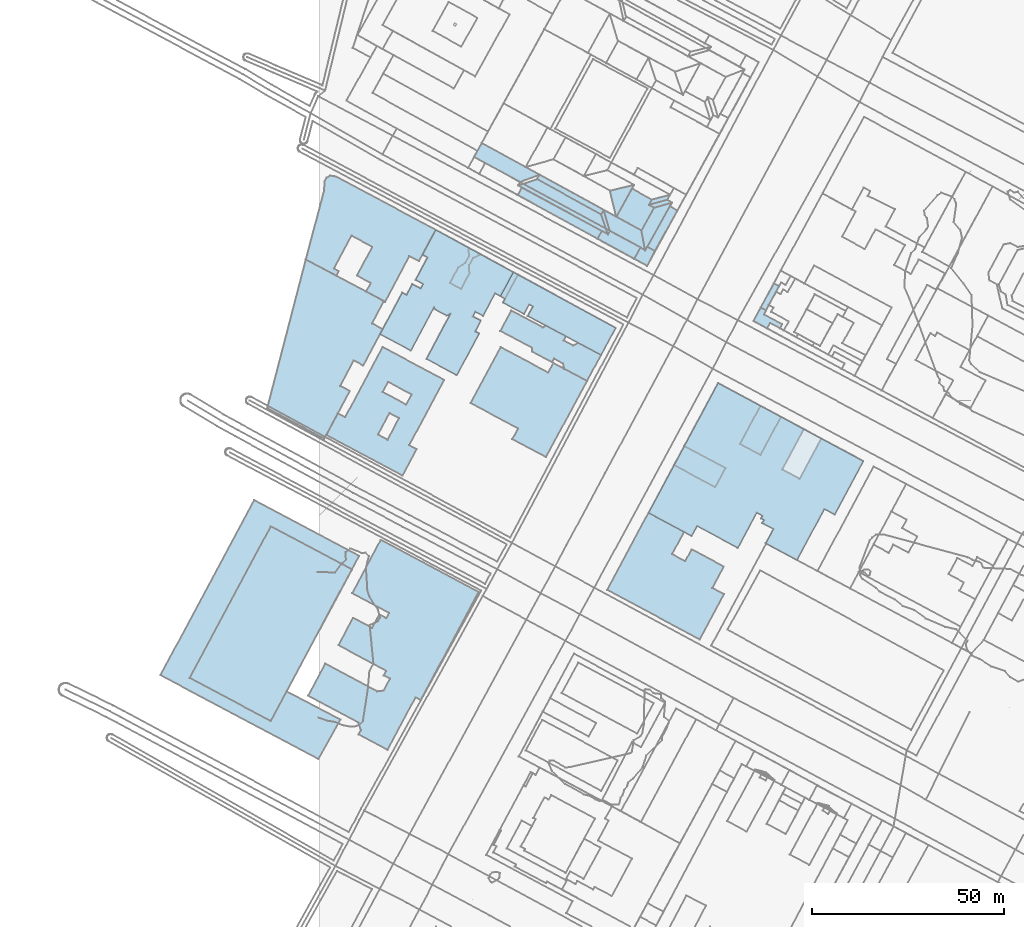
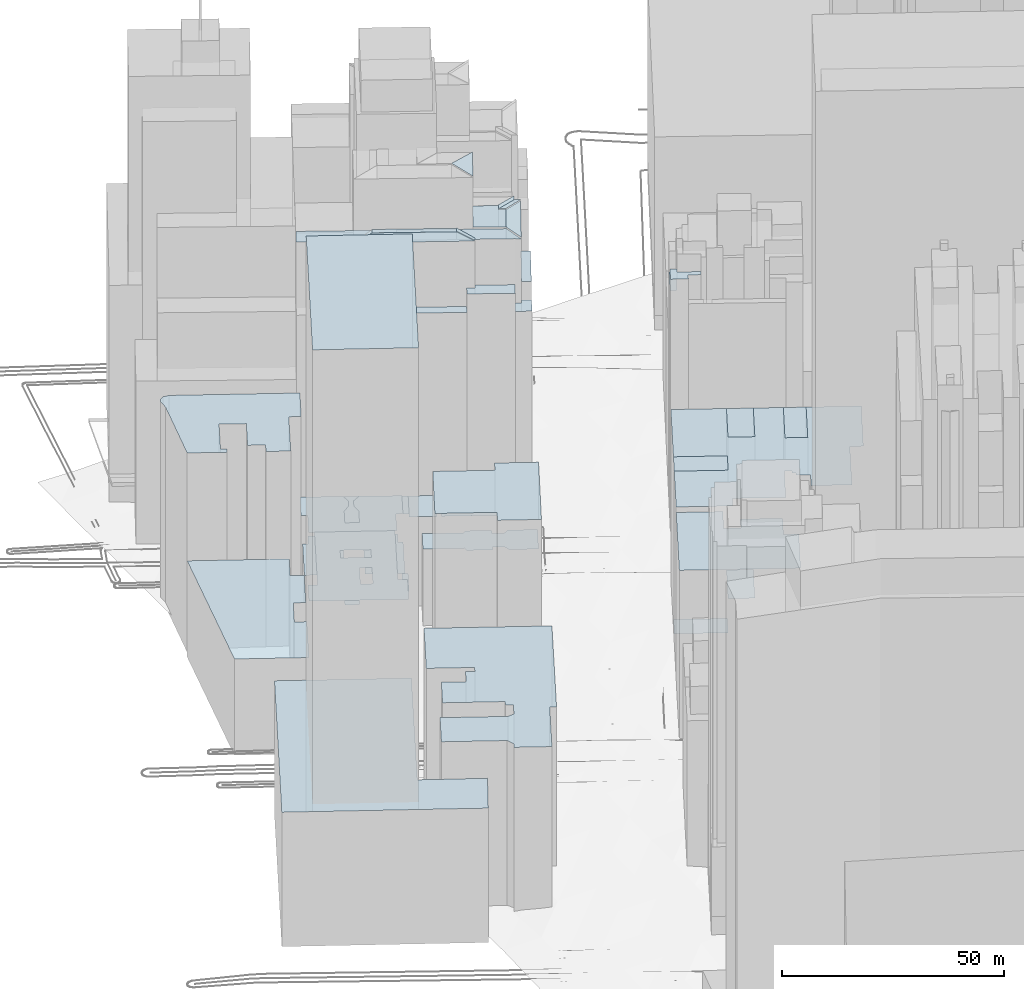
# Not in any storey, part 40 of 80: 34 roofs.
"""IFC4 building model written with IfcOpenShell, lengths in metres."""

from ifc_helpers import new_model, si_unit, frame, origin_with_axes, place, context, subcontext, project, spatial, polygons, element, save


model = new_model("IFC4")

# Units and contexts
model_context = context("Model", 3, precision=1e-05, world=origin_with_axes())
body_context = subcontext(model_context, "Body", "Model", "MODEL_VIEW")
ifc_project = project(units=[si_unit("AREAUNIT", "SQUARE_METRE"), si_unit("LENGTHUNIT", "METRE")], contexts=[model_context])

# Sites, building
site_1_placement = place(None, origin_with_axes())
site_1 = spatial("IfcSite", under=ifc_project, at=site_1_placement, Name="Topoexport Site")
site_2_placement = place(site_1_placement, origin_with_axes())
site_2 = spatial("IfcSite", under=site_1, at=site_2_placement, Name="TPX_BATIMENTS")
building_1_placement = place(site_2_placement, frame((85.8984085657, 240.2837612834, 20.6241127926), z_axis=(0.0, 0.0, 1.0), x_axis=(1.0, 0.0, 0.0)))
building_1 = spatial("IfcBuilding", under=site_2, at=building_1_placement, Name="Batiment 76", CompositionType="ELEMENT")

# Roof
roof_1_placement = place(None, frame((85.8984085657, 240.2837612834, 20.6241127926), z_axis=(0.0, 0.0, 1.0), x_axis=(1.0, 0.0, 0.0)))
element("IfcRoof", 1, at=roof_1_placement, inside=building_1, Name="Toiture 0", context=body_context, shape_type="Tessellation", body=[
    polygons([(0.0, 0.0, 50.0), (11.2465195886, -6.0311397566, 50.0), (12.6512037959, -3.4168984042, 50.0), (23.2861681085, -9.1220554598, 50.0), (28.2024169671, 0.0388994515, 50.0), (29.7229034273, -0.776106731, 50.0), (29.3592670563, -1.4464661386, 50.0), (30.1152258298, -1.848467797, 50.0), (29.6773030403, -2.6640194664, 50.0), (32.5654494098, -4.2180905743, 50.0), (30.5658357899, -7.9383700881, 50.0), (38.6867515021, -12.3182352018, 50.0), (45.8336301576, 1.0208901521, 50.0), (48.5348020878, -0.4243246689, 50.0), (55.9958034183, 13.4846763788, 50.0), (18.1278687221, 33.8059517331, 50.0)], [[[16, 1, 2]], [[3, 4, 5]], [[6, 7, 8]], [[8, 9, 10]], [[10, 11, 12]], [[13, 14, 15]], [[16, 2, 3]], [[6, 8, 10]], [[10, 12, 13]], [[13, 15, 16]], [[16, 3, 5]], [[6, 10, 13]], [[13, 16, 5]], [[5, 6, 13]]]),
])

# Building
building_2_placement = place(site_2_placement, frame((85.8984085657, 240.2837612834, 20.6241127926), z_axis=(0.0, 0.0, 1.0), x_axis=(1.0, 0.0, 0.0)))
building_2 = spatial("IfcBuilding", under=site_2, at=building_2_placement, Name="Batiment 77", CompositionType="ELEMENT")

# Roof
roof_2_placement = place(None, frame((85.8984085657, 240.2837612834, 20.6241127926), z_axis=(0.0, 0.0, 1.0), x_axis=(1.0, 0.0, 0.0)))
element("IfcRoof", 2, at=roof_2_placement, inside=building_2, Name="Toiture 0", context=body_context, shape_type="Tessellation", body=[
    polygons([(0.0, 0.0, 50.0), (11.2465195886, -6.0311397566, 50.0), (12.6512037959, -3.4168984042, 50.0), (23.2861681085, -9.1220554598, 50.0), (28.2024169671, 0.0388994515, 50.0), (29.7229034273, -0.776106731, 50.0), (29.3592670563, -1.4464661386, 50.0), (30.1152258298, -1.848467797, 50.0), (29.6773030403, -2.6640194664, 50.0), (32.5654494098, -4.2180905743, 50.0), (30.5658357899, -7.9383700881, 50.0), (38.6867515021, -12.3182352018, 50.0), (45.8336301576, 1.0208901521, 50.0), (48.5348020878, -0.4243246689, 50.0), (55.9958034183, 13.4846763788, 50.0), (45.0379209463, 19.3747728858, 50.0), (39.3945655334, 8.8619853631, 50.0), (34.8585594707, 11.2961922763, 50.0), (40.5020482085, 21.7978755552, 50.0), (34.5220457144, 25.003566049, 50.0), (29.1928346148, 15.0606509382, 50.0), (23.8498507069, 17.92958022, 50.0), (29.1875069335, 27.8725894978, 50.0), (18.1278687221, 33.8059517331, 50.0), (9.3283721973, 17.3945398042, 50.0), (20.0566635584, 11.6460536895, 50.0), (17.387953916, 6.6634513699, 50.0), (6.6595287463, 12.4230421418, 50.0)], [[[28, 1, 2]], [[3, 4, 5]], [[6, 7, 8]], [[8, 9, 10]], [[10, 11, 12]], [[13, 14, 15]], [[15, 16, 17]], [[18, 19, 20]], [[22, 23, 24]], [[24, 25, 26]], [[27, 28, 2]], [[6, 8, 10]], [[10, 12, 13]], [[13, 15, 17]], [[18, 20, 21]], [[22, 24, 26]], [[26, 27, 2]], [[6, 10, 13]], [[13, 17, 18]], [[18, 21, 22]], [[22, 26, 2]], [[5, 6, 13]], [[13, 18, 22]], [[22, 2, 3]], [[5, 13, 22]], [[22, 3, 5]]]),
])

# Building
building_3_placement = place(site_2_placement, frame((109.7482592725, 258.2133415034, 22.1609130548), z_axis=(0.0, 0.0, 1.0), x_axis=(1.0, 0.0, 0.0)))
building_3 = spatial("IfcBuilding", under=site_2, at=building_3_placement, Name="Batiment 78", CompositionType="ELEMENT")

# Roof
roof_3_placement = place(None, frame((109.7482592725, 258.2133415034, 22.1609130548), z_axis=(0.0, 0.0, 1.0), x_axis=(1.0, 0.0, 0.0)))
element("IfcRoof", 3, at=roof_3_placement, inside=building_3, Name="Toiture 0", context=body_context, shape_type="Tessellation", body=[
    polygons([(0.0, 0.0, 4.0), (5.3429839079, -2.8689292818, 4.0), (10.6721950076, 7.073985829, 4.0), (5.3376562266, 9.9430092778, 4.0)], [[[4, 1, 2]], [[2, 3, 4]]]),
])

# Building
building_4_placement = place(site_2_placement, frame((113.2505831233, 290.2618220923, 23.4496714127), z_axis=(0.0, 0.0, 1.0), x_axis=(1.0, 0.0, 0.0)))
building_4 = spatial("IfcBuilding", under=site_2, at=building_4_placement, Name="Batiment 89", CompositionType="ELEMENT")

# Roof
roof_4_placement = place(None, frame((113.2505831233, 290.2618220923, 23.4496714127), z_axis=(0.0, 0.0, 1.0), x_axis=(1.0, 0.0, 0.0)))
element("IfcRoof", 4, at=roof_4_placement, inside=building_4, Name="Toiture 0", context=body_context, shape_type="Tessellation", body=[
    polygons([(0.0, 0.0, 70.0), (3.5507210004, -1.912748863, 70.0), (4.3278559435, -0.5048368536, 70.0), (6.9103282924, -1.9070263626, 70.0), (7.4887654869, -0.8344899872, 70.0), (2.7316622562, 1.7414799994, 70.0), (3.2685432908, 2.7580220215, 70.0), (1.9180329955, 3.4750820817, 70.0)], [[[8, 1, 2]], [[3, 4, 5]], [[6, 7, 8]], [[3, 5, 6]], [[6, 8, 2]], [[2, 3, 6]]]),
])

# Building
building_5_placement = place(site_2_placement, frame((115.1686161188, 293.7369041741, 23.6149483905), z_axis=(0.0, 0.0, 1.0), x_axis=(1.0, 0.0, 0.0)))
building_5 = spatial("IfcBuilding", under=site_2, at=building_5_placement, Name="Batiment 91", CompositionType="ELEMENT")

# Roof
roof_5_placement = place(None, frame((115.1686161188, 293.7369041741, 23.6149483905), z_axis=(0.0, 0.0, 1.0), x_axis=(1.0, 0.0, 0.0)))
element("IfcRoof", 5, at=roof_5_placement, inside=building_5, Name="Toiture 0", context=body_context, shape_type="Tessellation", body=[
    polygons([(0.0, 0.0, 64.0), (1.3505102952, -0.7170600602, 64.0), (4.7632106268, 5.6175640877, 64.0), (3.4125721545, 6.3457242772, 64.0)], [[[4, 1, 2]], [[2, 3, 4]]]),
])

# Building
building_6_placement = place(site_2_placement, frame((75.8576447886, 324.2223197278, 23.8818952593), z_axis=(0.0, 0.0, 1.0), x_axis=(1.0, 0.0, 0.0)))
building_6 = spatial("IfcBuilding", under=site_2, at=building_6_placement, Name="Batiment 148", CompositionType="ELEMENT")

# Roof
roof_6_placement = place(None, frame((75.8576447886, 324.2223197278, 23.8818952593), z_axis=(0.0, 0.0, 1.0), x_axis=(1.0, 0.0, 0.0)))
element("IfcRoof", 6, at=roof_6_placement, inside=building_6, Name="Toiture 0", context=body_context, shape_type="Tessellation", body=[
    polygons([(0.0, 0.0, 94.0), (1.6742153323, -6.7862405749, 94.0), (6.2713279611, 1.5050133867, 94.0)], [[[3, 1, 2]]]),
])

# Building
building_7_placement = place(site_2_placement, frame((51.8301050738, 323.0662829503, 23.5650277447), z_axis=(0.0, 0.0, 1.0), x_axis=(1.0, 0.0, 0.0)))
building_7 = spatial("IfcBuilding", under=site_2, at=building_7_placement, Name="Batiment 151", CompositionType="ELEMENT")

# Roof
roof_7_placement = place(None, frame((51.8301050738, 323.0662829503, 23.5650277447), z_axis=(0.0, 0.0, 1.0), x_axis=(1.0, 0.0, 0.0)))
element("IfcRoof", 7, at=roof_7_placement, inside=building_7, Name="Toiture 0", context=body_context, shape_type="Tessellation", body=[
    polygons([(0.0, 0.0, 62.0), (20.7629560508, -11.3941082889, 62.0), (21.9038617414, -9.3269442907, 62.0), (1.0828589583, 1.9776688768, 62.0)], [[[4, 1, 2]], [[2, 3, 4]]]),
])

# Building
building_8_placement = place(site_2_placement, frame((-13.4692579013, 267.507853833, 20.5235292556), z_axis=(0.0, 0.0, 1.0), x_axis=(1.0, 0.0, 0.0)))
building_8 = spatial("IfcBuilding", under=site_2, at=building_8_placement, Name="Batiment 154", CompositionType="ELEMENT")

# Roof
roof_8_placement = place(None, frame((-13.4692579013, 267.507853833, 20.5235292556), z_axis=(0.0, 0.0, 1.0), x_axis=(1.0, 0.0, 0.0)))
element("IfcRoof", 8, at=roof_8_placement, inside=building_8, Name="Toiture 0", context=body_context, shape_type="Tessellation", body=[
    polygons([(0.0, 0.0, 26.5), (14.8729310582, -7.9321108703, 26.5), (21.5236253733, 4.535158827, 26.5), (19.0179048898, 5.871663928, 26.5), (22.5456521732, 12.4851249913, 26.5), (25.0429308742, 11.1485231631, 26.5), (30.1073251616, 20.644198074, 26.5), (27.3212769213, 22.1328790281, 26.5), (30.4109499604, 27.9418994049, 26.5), (10.0850586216, 38.7750178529, 26.5)], [[[10, 1, 2]], [[2, 3, 4]], [[5, 6, 7]], [[8, 9, 10]], [[10, 2, 4]], [[5, 7, 8]], [[8, 10, 4]], [[4, 5, 8]]]),
])

# Building
building_9_placement = place(site_2_placement, frame((-3.3841992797, 306.2828716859, 21.8195391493), z_axis=(0.0, 0.0, 1.0), x_axis=(1.0, 0.0, 0.0)))
building_9 = spatial("IfcBuilding", under=site_2, at=building_9_placement, Name="Batiment 155", CompositionType="ELEMENT")

# Roof
roof_9_placement = place(None, frame((-3.3841992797, 306.2828716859, 21.8195391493), z_axis=(0.0, 0.0, 1.0), x_axis=(1.0, 0.0, 0.0)))
element("IfcRoof", 9, at=roof_9_placement, inside=building_9, Name="Toiture 0", context=body_context, shape_type="Tessellation", body=[
    polygons([(0.0, 0.0, 54.9000015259), (7.9587232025, -4.2375453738, 54.9000015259), (8.5865292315, -3.0534231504, 54.9000015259), (7.3125093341, -2.3798647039, 54.9000015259), (11.8893541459, 6.2108665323, 54.9000015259), (17.3086069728, 3.3094443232, 54.9000015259), (13.3099607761, -4.1865612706, 54.9000015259), (16.8944091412, -6.0989674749, 54.9000015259), (15.6882811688, -8.366718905, 54.9000015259), (20.6318009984, -11.0072048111, 54.9000015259), (26.9684045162, 0.8791195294, 54.9000015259), (29.4571079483, -0.4464745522, 54.9000015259), (33.8274296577, 7.7532955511, 54.9000015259), (7.7846017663, 21.6841879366, 54.9000015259), (6.347319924, 21.8784555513, 54.9000015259), (5.3911895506, 21.3455570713, 54.9000015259), (4.8705322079, 20.3847231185, 54.9000015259), (4.8038334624, 18.1301925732, 54.9000015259)], [[[1, 2, 3]], [[6, 7, 8]], [[8, 9, 10]], [[11, 12, 13]], [[13, 14, 15]], [[15, 16, 17]], [[1, 3, 4]], [[6, 8, 10]], [[11, 13, 15]], [[15, 17, 18]], [[18, 1, 4]], [[6, 10, 11]], [[11, 15, 18]], [[18, 4, 5]], [[5, 6, 11]], [[11, 18, 5]]]),
])

# Building
building_10_placement = place(site_2_placement, frame((47.3240526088, 296.7460494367, 22.6341458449), z_axis=(0.0, 0.0, 1.0), x_axis=(1.0, 0.0, 0.0)))
building_10 = spatial("IfcBuilding", under=site_2, at=building_10_placement, Name="Batiment 156", CompositionType="ELEMENT")

# Roof
roof_10_placement = place(None, frame((47.3240526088, 296.7460494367, 22.6341458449), z_axis=(0.0, 0.0, 1.0), x_axis=(1.0, 0.0, 0.0)))
element("IfcRoof", 10, at=roof_10_placement, inside=building_10, Name="Toiture 0", context=body_context, shape_type="Tessellation", body=[
    polygons([(0.0, 0.0, 4.0), (1.2145569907, -0.6409345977, 4.0), (4.5862716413, 5.5932606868, 4.0), (3.3375678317, 6.267105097, 4.0)], [[[4, 1, 2]], [[2, 3, 4]]]),
])

# Building
building_11_placement = place(site_2_placement, frame((15.9441565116, 286.8450369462, 20.647913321), z_axis=(0.0, 0.0, 1.0), x_axis=(1.0, 0.0, 0.0)))
building_11 = spatial("IfcBuilding", under=site_2, at=building_11_placement, Name="Batiment 157", CompositionType="ELEMENT")

# Roof
roof_11_placement = place(None, frame((15.9441565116, 286.8450369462, 20.647913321), z_axis=(0.0, 0.0, 1.0), x_axis=(1.0, 0.0, 0.0)))
element("IfcRoof", 11, at=roof_11_placement, inside=building_11, Name="Toiture 0", context=body_context, shape_type="Tessellation", body=[
    polygons([(0.0, 0.0, 27.3999996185), (8.0352328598, -4.2810464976, 27.3999996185), (14.0662474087, 7.0244198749, 27.3999996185), (14.5213100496, 6.363565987, 27.3999996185), (17.3582596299, 4.8532774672, 27.3999996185), (18.4068488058, 5.4205597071, 27.3999996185), (12.0868715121, -6.4433762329, 27.3999996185), (20.0203200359, -10.6811822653, 27.3999996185), (25.8033972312, 0.1662240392, 27.3999996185), (24.7841247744, 0.7095061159, 27.3999996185), (26.2793412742, 3.5246280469, 27.3999996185), (24.1813290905, 4.6438087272, 27.3999996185), (24.8257532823, 5.8503314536, 27.3999996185), (26.8302782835, 4.7855771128, 27.3999996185), (29.9614850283, 10.6506035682, 27.3999996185), (31.3798960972, 9.9010124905, 27.3999996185), (34.717463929, 16.1681175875, 27.3999996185), (14.4990738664, 27.1911302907, 27.3999996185), (11.0539615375, 20.7340482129, 27.3999996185), (12.3874511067, 20.0278770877, 27.3999996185), (9.2563637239, 14.1517573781, 27.3999996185), (11.2354346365, 13.0978057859, 27.3999996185), (10.5910089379, 11.8912842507, 27.3999996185), (8.3996436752, 13.0537949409, 27.3999996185), (6.9042937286, 10.2497774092, 27.3999996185), (5.7830971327, 10.847390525, 27.3999996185)], [[[26, 1, 2]], [[3, 4, 5]], [[6, 7, 8]], [[8, 9, 10]], [[10, 11, 12]], [[13, 14, 15]], [[15, 16, 17]], [[17, 18, 19]], [[20, 21, 22]], [[23, 24, 25]], [[25, 26, 2]], [[3, 5, 6]], [[6, 8, 10]], [[13, 15, 17]], [[17, 19, 20]], [[23, 25, 2]], [[6, 10, 12]], [[13, 17, 20]], [[22, 23, 2]], [[3, 6, 12]], [[12, 13, 20]], [[22, 2, 3]], [[3, 12, 20]], [[20, 22, 3]]]),
])

# Building
building_12_placement = place(site_2_placement, frame((15.9441565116, 286.8450369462, 20.647913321), z_axis=(0.0, 0.0, 1.0), x_axis=(1.0, 0.0, 0.0)))
building_12 = spatial("IfcBuilding", under=site_2, at=building_12_placement, Name="Batiment 158", CompositionType="ELEMENT")

# Roof
roof_12_placement = place(None, frame((15.9441565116, 286.8450369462, 20.647913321), z_axis=(0.0, 0.0, 1.0), x_axis=(1.0, 0.0, 0.0)))
element("IfcRoof", 12, at=roof_12_placement, inside=building_12, Name="Toiture 0", context=body_context, shape_type="Tessellation", body=[
    polygons([(0.0, 0.0, 27.3999996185), (8.0352328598, -4.2810464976, 27.3999996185), (14.0662474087, 7.0244198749, 27.3999996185), (14.5213100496, 6.363565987, 27.3999996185), (17.3582596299, 4.8532774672, 27.3999996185), (18.4068488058, 5.4205597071, 27.3999996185), (12.0868715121, -6.4433762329, 27.3999996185), (20.0203200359, -10.6811822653, 27.3999996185), (25.8033972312, 0.1662240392, 27.3999996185), (24.7841247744, 0.7095061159, 27.3999996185), (26.2793412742, 3.5246280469, 27.3999996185), (24.1813290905, 4.6438087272, 27.3999996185), (24.8257532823, 5.8503314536, 27.3999996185), (26.8302782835, 4.7855771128, 27.3999996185), (29.9614850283, 10.6506035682, 27.3999996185), (31.3798960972, 9.9010124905, 27.3999996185), (34.717463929, 16.1681175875, 27.3999996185), (26.2477906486, 20.7882623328, 27.3999996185), (24.2412699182, 19.8434861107, 27.3999996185), (23.2746353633, 18.0337020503, 27.3999996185), (23.2917057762, 15.8356544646, 27.3999996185), (21.13557285, 11.7805123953, 27.3999996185), (18.213707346, 13.3342229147, 27.3999996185), (20.3782815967, 17.3894620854, 27.3999996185), (22.2214757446, 18.5876933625, 27.3999996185), (23.1881104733, 20.3974772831, 27.3999996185), (23.1045489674, 22.5059351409, 27.3999996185), (14.4990738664, 27.1911302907, 27.3999996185), (11.0539615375, 20.7340482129, 27.3999996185), (12.3874511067, 20.0278770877, 27.3999996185), (9.2563637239, 14.1517573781, 27.3999996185), (11.2354346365, 13.0978057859, 27.3999996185), (10.5910089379, 11.8912842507, 27.3999996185), (8.3996436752, 13.0537949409, 27.3999996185), (6.9042937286, 10.2497774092, 27.3999996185), (5.7830971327, 10.847390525, 27.3999996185)], [[[36, 1, 2]], [[3, 4, 5]], [[6, 7, 8]], [[8, 9, 10]], [[10, 11, 12]], [[13, 14, 15]], [[15, 16, 17]], [[17, 18, 19]], [[19, 20, 21]], [[24, 25, 26]], [[26, 27, 28]], [[28, 29, 30]], [[30, 31, 32]], [[33, 34, 35]], [[35, 36, 2]], [[3, 5, 6]], [[6, 8, 10]], [[13, 15, 17]], [[17, 19, 21]], [[24, 26, 28]], [[28, 30, 32]], [[33, 35, 2]], [[6, 10, 12]], [[13, 17, 21]], [[23, 24, 28]], [[32, 33, 2]], [[3, 6, 12]], [[12, 13, 21]], [[23, 28, 32]], [[32, 2, 3]], [[12, 21, 22]], [[22, 23, 32]], [[32, 3, 12]], [[12, 22, 32]]]),
])

# Building
building_13_placement = place(site_2_placement, frame((34.1578638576, 300.1792598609, 21.4353953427), z_axis=(0.0, 0.0, 1.0), x_axis=(1.0, 0.0, 0.0)))
building_13 = spatial("IfcBuilding", under=site_2, at=building_13_placement, Name="Batiment 159", CompositionType="ELEMENT")

# Roof
roof_13_placement = place(None, frame((34.1578638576, 300.1792598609, 21.4353953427), z_axis=(0.0, 0.0, 1.0), x_axis=(1.0, 0.0, 0.0)))
element("IfcRoof", 13, at=roof_13_placement, inside=building_13, Name="Toiture 0", context=body_context, shape_type="Tessellation", body=[
    polygons([(0.0, 0.0, 4.0), (2.921865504, -1.5537105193, 4.0), (5.0779984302, 2.5014315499, 4.0), (5.0609280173, 4.6994791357, 4.0), (6.0275625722, 6.509263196, 4.0), (8.0340833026, 7.4540394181, 4.0), (4.8908416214, 9.1717122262, 4.0), (4.9744031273, 7.0632543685, 4.0), (4.0077683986, 5.2534704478, 4.0), (2.1645742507, 4.0552391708, 4.0)], [[[10, 1, 2]], [[2, 3, 4]], [[5, 6, 7]], [[9, 10, 2]], [[5, 7, 8]], [[8, 9, 2]], [[4, 5, 8]], [[8, 2, 4]]]),
])

# Building
building_14_placement = place(site_2_placement, frame((73.5998116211, 318.0232504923, 23.6934942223), z_axis=(0.0, 0.0, 1.0), x_axis=(1.0, 0.0, 0.0)))
building_14 = spatial("IfcBuilding", under=site_2, at=building_14_placement, Name="Batiment 160", CompositionType="ELEMENT")

# Roof
roof_14_placement = place(None, frame((73.5998116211, 318.0232504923, 23.6934942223), z_axis=(0.0, 0.0, 1.0), x_axis=(1.0, 0.0, 0.0)))
element("IfcRoof", 14, at=roof_14_placement, inside=building_14, Name="Toiture 0", context=body_context, shape_type="Tessellation", body=[
    polygons([(0.0, 0.0, 80.0), (1.7651185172, -5.1642565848, 80.0), (2.2527799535, -4.2704138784, 80.0), (0.6783061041, 1.1958170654, 80.0)], [[[4, 1, 2]], [[2, 3, 4]]]),
])

# Building
building_15_placement = place(site_2_placement, frame((72.5930611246, 311.6721746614, 23.6541015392), z_axis=(0.0, 0.0, 1.0), x_axis=(1.0, 0.0, 0.0)))
building_15 = spatial("IfcBuilding", under=site_2, at=building_15_placement, Name="Batiment 161", CompositionType="ELEMENT")

# Roof
roof_15_placement = place(None, frame((72.5930611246, 311.6721746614, 23.6541015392), z_axis=(0.0, 0.0, 1.0), x_axis=(1.0, 0.0, 0.0)))
element("IfcRoof", 15, at=roof_15_placement, inside=building_15, Name="Toiture 0", context=body_context, shape_type="Tessellation", body=[
    polygons([(0.0, 0.0, 67.0), (9.5908889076, -5.2177144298, 67.0), (11.2191958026, -2.2345041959, 67.0), (3.2595304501, 2.0806619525, 67.0), (2.7718690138, 1.186819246, 67.0), (1.1409056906, 2.0671639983, 67.0)], [[[6, 1, 2]], [[2, 3, 4]], [[5, 6, 2]], [[2, 4, 5]]]),
])

# Building
building_16_placement = place(site_2_placement, frame((82.1839500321, 306.4544602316, 23.6541015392), z_axis=(0.0, 0.0, 1.0), x_axis=(1.0, 0.0, 0.0)))
building_16 = spatial("IfcBuilding", under=site_2, at=building_16_placement, Name="Batiment 162", CompositionType="ELEMENT")

# Roof
roof_16_placement = place(None, frame((82.1839500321, 306.4544602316, 23.6541015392), z_axis=(0.0, 0.0, 1.0), x_axis=(1.0, 0.0, 0.0)))
element("IfcRoof", 16, at=roof_16_placement, inside=building_16, Name="Toiture 0", context=body_context, shape_type="Tessellation", body=[
    polygons([(0.0, 0.0, 62.0), (3.3638596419, -1.8150130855, 62.0), (5.3873702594, 2.0276609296, 62.0), (3.390767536, 3.1369042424, 62.0), (2.8614214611, 2.1981677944, 62.0), (1.628306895, 2.983210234, 62.0)], [[[6, 1, 2]], [[2, 3, 4]], [[5, 6, 2]], [[2, 4, 5]]]),
])

# Building
building_17_placement = place(site_2_placement, frame((84.0905066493, 313.8262916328, 23.7335275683), z_axis=(0.0, 0.0, 1.0), x_axis=(1.0, 0.0, 0.0)))
building_17 = spatial("IfcBuilding", under=site_2, at=building_17_placement, Name="Batiment 163", CompositionType="ELEMENT")

# Roof
roof_17_placement = place(None, frame((84.0905066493, 313.8262916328, 23.7335275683), z_axis=(0.0, 0.0, 1.0), x_axis=(1.0, 0.0, 0.0)))
element("IfcRoof", 17, at=roof_17_placement, inside=building_17, Name="Toiture 0", context=body_context, shape_type="Tessellation", body=[
    polygons([(0.0, 0.0, 80.0), (0.9548648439, -5.1736636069, 80.0), (7.9345415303, 7.2975078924, 80.0), (3.3073776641, 5.9559091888, 80.0)], [[[4, 1, 2]], [[2, 3, 4]]]),
])

# Building
building_18_placement = place(site_2_placement, frame((85.5747175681, 309.591364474, 23.7388524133), z_axis=(0.0, 0.0, 1.0), x_axis=(1.0, 0.0, 0.0)))
building_18 = spatial("IfcBuilding", under=site_2, at=building_18_placement, Name="Batiment 164", CompositionType="ELEMENT")

# Roof
roof_18_placement = place(None, frame((85.5747175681, 309.591364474, 23.7388524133), z_axis=(0.0, 0.0, 1.0), x_axis=(1.0, 0.0, 0.0)))
element("IfcRoof", 18, at=roof_18_placement, inside=building_18, Name="Toiture 0", context=body_context, shape_type="Tessellation", body=[
    polygons([(0.0, 0.0, 67.0), (1.9966027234, -1.1092433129, 67.0), (7.8583766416, 9.4948709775, 67.0), (5.9126749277, 10.5824993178, 67.0)], [[[4, 1, 2]], [[2, 3, 4]]]),
])

# Building
building_19_placement = place(site_2_placement, frame((47.2941529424, 287.6862653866, 22.3142509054), z_axis=(0.0, 0.0, 1.0), x_axis=(1.0, 0.0, 0.0)))
building_19 = spatial("IfcBuilding", under=site_2, at=building_19_placement, Name="Batiment 165", CompositionType="ELEMENT")

# Roof
roof_19_placement = place(None, frame((47.2941529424, 287.6862653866, 22.3142509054), z_axis=(0.0, 0.0, 1.0), x_axis=(1.0, 0.0, 0.0)))
element("IfcRoof", 19, at=roof_19_placement, inside=building_19, Name="Toiture 0", context=body_context, shape_type="Tessellation", body=[
    polygons([(0.0, 0.0, 21.5), (8.2307944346, -4.4008675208, 21.5), (8.2421345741, -5.3777339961, 21.5), (13.4574445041, -8.1593656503, 21.5), (13.9699153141, -7.2208270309, 21.5), (16.3907258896, -8.5138902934, 21.5), (16.6767950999, -9.8872482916, 21.5), (22.5887243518, -13.0493648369, 21.5), (26.2412137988, -6.2789916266, 21.5), (20.3292881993, -3.1168780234, 21.5), (18.9358097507, -3.7880894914, 21.5), (16.5150002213, -2.4950270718, 21.5), (17.1100684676, -1.400097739, 21.5), (11.8946328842, 1.3926320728, 21.5), (11.0899102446, 0.905893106, 21.5), (2.8591197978, 5.3067574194, 21.5)], [[[16, 1, 2]], [[2, 3, 4]], [[6, 7, 8]], [[8, 9, 10]], [[12, 13, 14]], [[15, 16, 2]], [[2, 4, 5]], [[6, 8, 10]], [[12, 14, 15]], [[15, 2, 5]], [[5, 6, 10]], [[12, 15, 5]], [[5, 10, 11]], [[11, 12, 5]]]),
])

# Building
building_20_placement = place(site_2_placement, frame((47.9849679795, 295.0772811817, 22.6386360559), z_axis=(0.0, 0.0, 1.0), x_axis=(1.0, 0.0, 0.0)))
building_20 = spatial("IfcBuilding", under=site_2, at=building_20_placement, Name="Batiment 166", CompositionType="ELEMENT")

# Roof
roof_20_placement = place(None, frame((47.9849679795, 295.0772811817, 22.6386360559), z_axis=(0.0, 0.0, 1.0), x_axis=(1.0, 0.0, 0.0)))
element("IfcRoof", 20, at=roof_20_placement, inside=building_20, Name="Toiture 0", context=body_context, shape_type="Tessellation", body=[
    polygons([(0.0, 0.0, 25.2999992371), (5.4873189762, -2.9450128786, 25.2999992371), (6.8259021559, -0.4536717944, 25.2999992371), (7.8112848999, -0.9862431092, 25.2999992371), (6.4725730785, -3.4664836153, 25.2999992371), (25.5503987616, -13.6700074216, 25.2999992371), (29.3597658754, -6.5980497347, 25.2999992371), (3.9253562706, 7.2620289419, 25.2999992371)], [[[8, 1, 2]], [[4, 5, 6]], [[6, 7, 8]], [[8, 2, 3]], [[4, 6, 8]], [[8, 3, 4]]]),
])

# Building
building_21_placement = place(site_2_placement, frame((47.3240526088, 296.7460494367, 22.6341458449), z_axis=(0.0, 0.0, 1.0), x_axis=(1.0, 0.0, 0.0)))
building_21 = spatial("IfcBuilding", under=site_2, at=building_21_placement, Name="Batiment 167", CompositionType="ELEMENT")

# Roof
roof_21_placement = place(None, frame((47.3240526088, 296.7460494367, 22.6341458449), z_axis=(0.0, 0.0, 1.0), x_axis=(1.0, 0.0, 0.0)))
element("IfcRoof", 21, at=roof_21_placement, inside=building_21, Name="Toiture 0", context=body_context, shape_type="Tessellation", body=[
    polygons([(0.0, 0.0, 25.2999992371), (1.2145569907, -0.6409345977, 25.2999992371), (0.6609153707, -1.668768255, 25.2999992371), (6.1482343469, -4.6137811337, 25.2999992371), (7.4868175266, -2.1224400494, 25.2999992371), (8.4722002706, -2.6550113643, 25.2999992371), (7.1334884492, -5.1352518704, 25.2999992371), (26.2113141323, -15.3387756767, 25.2999992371), (30.0206812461, -8.2668179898, 25.2999992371), (3.3375678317, 6.267105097, 25.2999992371)], [[[10, 1, 2]], [[2, 3, 4]], [[6, 7, 8]], [[8, 9, 10]], [[10, 2, 4]], [[6, 8, 10]], [[10, 4, 5]], [[5, 6, 10]]]),
])

# Building
building_22_placement = place(site_2_placement, frame((39.5439098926, 268.8668109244, 21.829392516), z_axis=(0.0, 0.0, 1.0), x_axis=(1.0, 0.0, 0.0)))
building_22 = spatial("IfcBuilding", under=site_2, at=building_22_placement, Name="Batiment 168", CompositionType="ELEMENT")

# Roof
roof_22_placement = place(None, frame((39.5439098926, 268.8668109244, 21.829392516), z_axis=(0.0, 0.0, 1.0), x_axis=(1.0, 0.0, 0.0)))
element("IfcRoof", 22, at=roof_22_placement, inside=building_22, Name="Toiture 0", context=body_context, shape_type="Tessellation", body=[
    polygons([(0.0, 0.0, 45.9000015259), (12.3759530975, -6.6176192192, 45.9000015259), (10.8802187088, -9.3883399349, 45.9000015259), (19.6376943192, -14.0717489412, 45.9000015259), (30.3389674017, 5.7700896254, 45.9000015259), (21.5815076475, 10.4534858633, 45.9000015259), (20.2344833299, 7.9620457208, 45.9000015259), (7.8585467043, 14.5796516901, 45.9000015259)], [[[8, 1, 2]], [[2, 3, 4]], [[4, 5, 6]], [[7, 8, 2]], [[2, 4, 6]], [[6, 7, 2]]]),
])

# Building
building_23_placement = place(site_2_placement, frame((92.5579373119, 252.7068034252, 21.8391315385), z_axis=(0.0, 0.0, 1.0), x_axis=(1.0, 0.0, 0.0)))
building_23 = spatial("IfcBuilding", under=site_2, at=building_23_placement, Name="Batiment 169", CompositionType="ELEMENT")

# Roof
roof_23_placement = place(None, frame((92.5579373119, 252.7068034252, 21.8391315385), z_axis=(0.0, 0.0, 1.0), x_axis=(1.0, 0.0, 0.0)))
element("IfcRoof", 23, at=roof_23_placement, inside=building_23, Name="Toiture 0", context=body_context, shape_type="Tessellation", body=[
    polygons([(0.0, 0.0, 4.0), (10.7284251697, -5.759590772, 4.0), (13.3971348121, -0.7769884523, 4.0), (2.6688434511, 4.9714976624, 4.0)], [[[4, 1, 2]], [[2, 3, 4]]]),
])

# Building
building_24_placement = place(site_2_placement, frame((75.1238683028, 220.2079028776, 20.5185789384), z_axis=(0.0, 0.0, 1.0), x_axis=(1.0, 0.0, 0.0)))
building_24 = spatial("IfcBuilding", under=site_2, at=building_24_placement, Name="Batiment 170", CompositionType="ELEMENT")

# Roof
roof_24_placement = place(None, frame((75.1238683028, 220.2079028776, 20.5185789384), z_axis=(0.0, 0.0, 1.0), x_axis=(1.0, 0.0, 0.0)))
element("IfcRoof", 24, at=roof_24_placement, inside=building_24, Name="Toiture 0", context=body_context, shape_type="Tessellation", body=[
    polygons([(0.0, 0.0, 48.5999984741), (24.1325284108, -12.9425374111, 48.5999984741), (30.4615452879, -1.1339469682, 48.5999984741), (27.4290071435, 0.4961679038, 48.5999984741), (30.411754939, 6.0597342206, 48.5999984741), (22.0193408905, 10.5585915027, 48.5999984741), (20.3502373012, 7.4527804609, 48.5999984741), (16.9270008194, 9.2893047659, 48.5999984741), (20.0504016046, 15.09874989, 48.5999984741), (10.7745402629, 20.0758584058, 48.5999984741)], [[[10, 1, 2]], [[2, 3, 4]], [[4, 5, 6]], [[8, 9, 10]], [[2, 4, 6]], [[8, 10, 2]], [[2, 6, 7]], [[7, 8, 2]]]),
])

# Building
building_25_placement = place(site_2_placement, frame((1.9323894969, 260.5699769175, 20.5582452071), z_axis=(0.0, 0.0, 1.0), x_axis=(1.0, 0.0, 0.0)))
building_25 = spatial("IfcBuilding", under=site_2, at=building_25_placement, Name="Batiment 171", CompositionType="ELEMENT")

# Roof
roof_25_placement = place(None, frame((1.9323894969, 260.5699769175, 20.5582452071), z_axis=(0.0, 0.0, 1.0), x_axis=(1.0, 0.0, 0.0)))
element("IfcRoof", 25, at=roof_25_placement, inside=building_25, Name="Toiture 0", context=body_context, shape_type="Tessellation", body=[
    polygons([(0.0, 0.0, 41.2000007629), (19.884421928, -10.6050822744, 41.2000007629), (23.5608715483, -3.7123317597, 41.2000007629), (21.6242486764, -2.6800914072, 41.2000007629), (30.7036559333, 14.3562056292, 41.2000007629), (14.6755029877, 22.9076776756, 41.2000007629), (4.9268330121, 4.6201840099, 41.2000007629), (3.015664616, 5.6416221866, 41.2000007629), (13.4801606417, 0.0675826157, 41.2000007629), (16.4710095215, 5.6645136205, 41.2000007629), (18.9427160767, 4.3498225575, 41.2000007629), (15.9519972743, -1.2582102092, 41.2000007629), (14.7016706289, 11.1951078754, 41.2000007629), (16.1062463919, 13.820434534, 41.2000007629), (22.2473331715, 10.5499185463, 41.2000007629), (20.8513279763, 7.9135878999, 41.2000007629)], [[[16, 13, 7]], [[7, 8, 1]], [[1, 9, 10]], [[12, 9, 1]], [[1, 2, 3]], [[6, 7, 13]], [[16, 7, 1]], [[12, 1, 3]], [[6, 13, 14]], [[16, 1, 10]], [[12, 3, 4]], [[5, 6, 14]], [[16, 10, 11]], [[11, 12, 4]], [[5, 14, 15]], [[16, 11, 4]], [[4, 5, 15]], [[15, 16, 4]]]),
])

# Building
building_26_placement = place(site_2_placement, frame((-2.7913984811, 192.6027250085, 19.7081583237), z_axis=(0.0, 0.0, 1.0), x_axis=(1.0, 0.0, 0.0)))
building_26 = spatial("IfcBuilding", under=site_2, at=building_26_placement, Name="Batiment 172", CompositionType="ELEMENT")

# Roof
roof_26_placement = place(None, frame((-2.7913984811, 192.6027250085, 19.7081583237), z_axis=(0.0, 0.0, 1.0), x_axis=(1.0, 0.0, 0.0)))
element("IfcRoof", 26, at=roof_26_placement, inside=building_26, Name="Toiture 0", context=body_context, shape_type="Tessellation", body=[
    polygons([(0.0, 0.0, 46.2000007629), (13.0981058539, -7.0089939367, 46.2000007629), (13.7530284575, -8.8887774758, 46.2000007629), (13.1169008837, -10.0840985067, 46.2000007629), (20.6597368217, -14.1155150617, 46.2000007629), (27.9882930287, -0.4080177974, 46.2000007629), (29.3389411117, -1.1361950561, 46.2000007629), (44.4009101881, 27.0273767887, 46.2000007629), (18.926971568, 40.6428730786, 46.2000007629), (11.4828536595, 26.7119974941, 46.2000007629), (21.1066720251, 21.5722969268, 46.2000007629), (20.3713252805, 20.1981878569, 46.2000007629), (18.5196108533, 21.1870066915, 46.2000007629), (16.6440978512, 17.6791392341, 46.2000007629), (11.7089640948, 20.3197258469, 46.2000007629), (7.8920809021, 13.1589018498, 46.2000007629), (20.361463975, 6.4978988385, 46.2000007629), (19.7335216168, 5.3248766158, 46.2000007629), (21.330483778, 4.466328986, 46.2000007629), (19.6699087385, 1.3495336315, 46.2000007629), (17.9922095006, 1.1635335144, 46.2000007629), (4.4864005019, 8.3898337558, 46.2000007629)], [[[22, 1, 2]], [[3, 4, 5]], [[6, 7, 8]], [[8, 9, 10]], [[12, 13, 14]], [[14, 15, 16]], [[17, 18, 19]], [[21, 22, 2]], [[2, 3, 5]], [[8, 10, 11]], [[14, 16, 17]], [[20, 21, 2]], [[2, 5, 6]], [[6, 8, 11]], [[12, 14, 17]], [[20, 2, 6]], [[6, 11, 12]], [[12, 17, 19]], [[19, 20, 6]], [[6, 12, 19]]]),
])

# Building
building_27_placement = place(site_2_placement, frame((-33.682086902, 197.2515555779, 19.8467253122), z_axis=(0.0, 0.0, 1.0), x_axis=(1.0, 0.0, 0.0)))
building_27 = spatial("IfcBuilding", under=site_2, at=building_27_placement, Name="Batiment 196", CompositionType="ELEMENT")

# Roof
roof_27_placement = place(None, frame((-33.682086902, 197.2515555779, 19.8467253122), z_axis=(0.0, 0.0, 1.0), x_axis=(1.0, 0.0, 0.0)))
element("IfcRoof", 27, at=roof_27_placement, inside=building_27, Name="Toiture 0", context=body_context, shape_type="Tessellation", body=[
    polygons([(0.0, 0.0, 162.0), (21.1496172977, -11.2344352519, 162.0), (42.3099874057, 28.2685864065, 162.0), (21.1603180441, 39.5140614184, 162.0)], [[[4, 1, 2]], [[2, 3, 4]]]),
])

# Building
building_28_placement = place(site_2_placement, frame((-41.2792322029, 197.9628221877, 19.7236717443), z_axis=(0.0, 0.0, 1.0), x_axis=(1.0, 0.0, 0.0)))
building_28 = spatial("IfcBuilding", under=site_2, at=building_28_placement, Name="Batiment 197", CompositionType="ELEMENT")

# Roof
roof_28_placement = place(None, frame((-41.2792322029, 197.9628221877, 19.7236717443), z_axis=(0.0, 0.0, 1.0), x_axis=(1.0, 0.0, 0.0)))
element("IfcRoof", 28, at=roof_28_placement, inside=building_28, Name="Toiture 0", context=body_context, shape_type="Tessellation", body=[
    polygons([(0.0, 0.0, 37.0), (41.1697471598, -21.8824360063, 37.0), (46.9005745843, -11.6129862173, 37.0), (32.8697860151, -4.2484289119, 37.0), (51.740056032, 31.0979986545, 37.0), (24.432417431, 45.6138174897, 37.0)], [[[1, 2, 3]], [[4, 5, 6]], [[1, 3, 4]], [[4, 6, 1]]]),
])

# Building
building_29_placement = place(site_2_placement, frame((40.4372493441, 332.9926795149, 23.2973875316), z_axis=(0.0, 0.0, 1.0), x_axis=(1.0, 0.0, 0.0)))
building_29 = spatial("IfcBuilding", under=site_2, at=building_29_placement, Name="Batiment 302", CompositionType="ELEMENT")

# Roof
roof_29_placement = place(None, frame((40.4372493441, 332.9926795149, 23.2973875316), z_axis=(0.0, 0.0, 1.0), x_axis=(1.0, 0.0, 0.0)))
element("IfcRoof", 29, at=roof_29_placement, inside=building_29, Name="Toiture 0", context=body_context, shape_type="Tessellation", body=[
    polygons([(0.0, 0.0, 80.0), (43.3750075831, -23.5550090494, 80.0), (44.6081221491, -24.340051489, 80.0), (43.6532573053, -19.1663878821, 80.0), (2.0171467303, 3.6649515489, 80.0)], [[[5, 1, 2]], [[2, 3, 4]], [[4, 5, 2]]]),
])

# Building
building_30_placement = place(site_2_placement, frame((86.0131052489, 320.5432770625, 24.0792113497), z_axis=(0.0, 0.0, 1.0), x_axis=(1.0, 0.0, 0.0)))
building_30 = spatial("IfcBuilding", under=site_2, at=building_30_placement, Name="Batiment 325", CompositionType="ELEMENT")

# Roof
roof_30_placement = place(None, frame((86.0131052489, 320.5432770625, 24.0792113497), z_axis=(0.0, 0.0, 1.0), x_axis=(1.0, 0.0, 0.0)))
element("IfcRoof", 30, at=roof_30_placement, inside=building_30, Name="Toiture 0", context=body_context, shape_type="Tessellation", body=[
    polygons([(0.0, 0.0, 80.0), (4.762593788, 1.3098639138, 80.0), (5.5154405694, 2.6286731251, 80.0), (0.7607723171, 1.3633097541, 80.0)], [[[4, 1, 2]], [[2, 3, 4]]]),
])

# Building
building_31_placement = place(site_2_placement, frame((86.0131052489, 320.5432770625, 24.0792113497), z_axis=(0.0, 0.0, 1.0), x_axis=(1.0, 0.0, 0.0)))
building_31 = spatial("IfcBuilding", under=site_2, at=building_31_placement, Name="Batiment 326", CompositionType="ELEMENT")

# Roof
roof_31_placement = place(None, frame((86.0131052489, 320.5432770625, 24.0792113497), z_axis=(0.0, 0.0, 1.0), x_axis=(1.0, 0.0, 0.0)))
element("IfcRoof", 31, at=roof_31_placement, inside=building_31, Name="Toiture 0", context=body_context, shape_type="Tessellation", body=[
    polygons([(0.0, 0.0, 80.0), (1.3847790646, -0.7610762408, 80.0), (6.0119429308, 0.5805224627, 80.0), (4.762593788, 1.3098639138, 80.0)], [[[4, 1, 2]], [[2, 3, 4]]]),
])

# Building
building_32_placement = place(site_2_placement, frame((77.5318601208, 317.4360791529, 23.8332747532), z_axis=(0.0, 0.0, 1.0), x_axis=(1.0, 0.0, 0.0)))
building_32 = spatial("IfcBuilding", under=site_2, at=building_32_placement, Name="Batiment 327", CompositionType="ELEMENT")

# Roof
roof_32_placement = place(None, frame((77.5318601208, 317.4360791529, 23.8332747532), z_axis=(0.0, 0.0, 1.0), x_axis=(1.0, 0.0, 0.0)))
element("IfcRoof", 32, at=roof_32_placement, inside=building_32, Name="Toiture 0", context=body_context, shape_type="Tessellation", body=[
    polygons([(0.0, 0.0, 80.0), (6.5586465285, -3.60978752, 80.0), (9.8660241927, 2.3461216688, 80.0), (8.4812451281, 3.1071979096, 80.0), (9.2420174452, 4.4705076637, 80.0), (4.059713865, 7.3191174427, 80.0)], [[[6, 1, 2]], [[2, 3, 4]], [[4, 5, 6]], [[6, 2, 4]]]),
])

# Building
building_33_placement = place(site_2_placement, frame((56.8465504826, 327.2323505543, 23.571723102), z_axis=(0.0, 0.0, 1.0), x_axis=(1.0, 0.0, 0.0)))
building_33 = spatial("IfcBuilding", under=site_2, at=building_33_placement, Name="Batiment 329", CompositionType="ELEMENT")

# Roof
roof_33_placement = place(None, frame((56.8465504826, 327.2323505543, 23.571723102), z_axis=(0.0, 0.0, 1.0), x_axis=(1.0, 0.0, 0.0)))
element("IfcRoof", 33, at=roof_33_placement, inside=building_33, Name="Toiture 0", context=body_context, shape_type="Tessellation", body=[
    polygons([(0.0, 0.0, 80.0), (16.7532611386, -9.209100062, 80.0), (17.4315672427, -8.0132829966, 80.0), (0.6872635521, 1.151510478, 80.0)], [[[4, 1, 2]], [[2, 3, 4]]]),
])

# Building
building_34_placement = place(site_2_placement, frame((51.9190164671, 325.5875262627, 23.5550313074), z_axis=(0.0, 0.0, 1.0), x_axis=(1.0, 0.0, 0.0)))
building_34 = spatial("IfcBuilding", under=site_2, at=building_34_placement, Name="Batiment 330", CompositionType="ELEMENT")

# Roof
roof_34_placement = place(None, frame((51.9190164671, 325.5875262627, 23.5550313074), z_axis=(0.0, 0.0, 1.0), x_axis=(1.0, 0.0, 0.0)))
element("IfcRoof", 34, at=roof_34_placement, inside=building_34, Name="Toiture 0", context=body_context, shape_type="Tessellation", body=[
    polygons([(0.0, 0.0, 80.0), (21.8149503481, -11.8481876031, 80.0), (23.4459136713, -12.7285323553, 80.0), (21.6807951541, -7.5642757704, 80.0), (4.9275340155, 1.6448242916, 80.0)], [[[5, 1, 2]], [[2, 3, 4]], [[4, 5, 2]]]),
])

save(model, "model.ifc")
